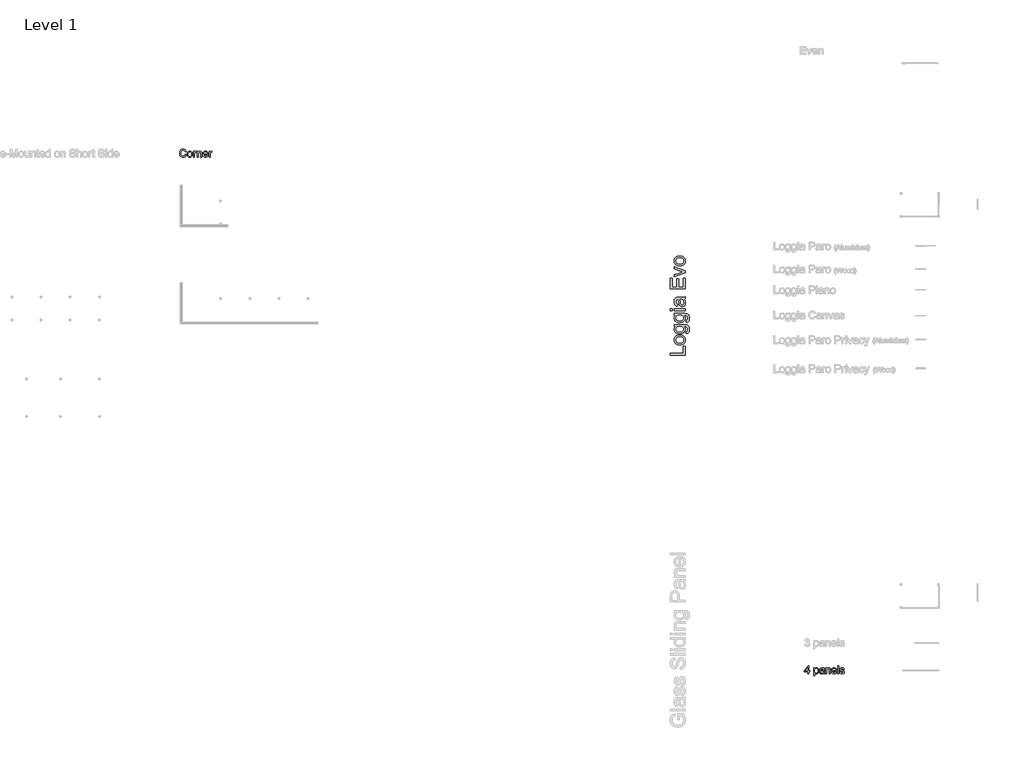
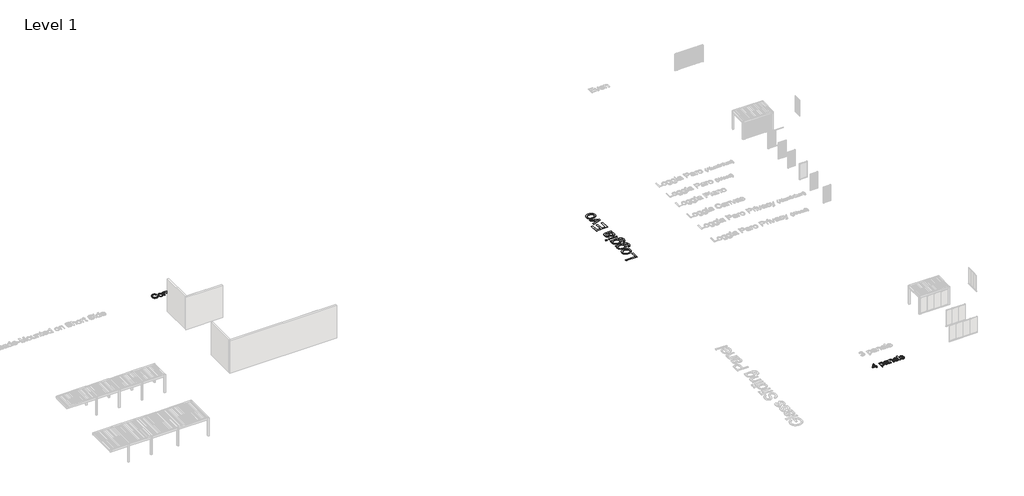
# One storey, part 22 of 69: 3 proxies.
"""IFC4 building model written with IfcOpenShell, lengths in millimetres."""

from ifc_helpers import new_model, si_unit, origin, origin_with_axes, place, context, project, spatial, polyline, outline, extrude, element, save

model = new_model("IFC4")

# Units and contexts
model_context = context("Model", 3, world=origin())
ifc_project = project(units=[si_unit("LENGTHUNIT", "METRE", prefix="MILLI")], contexts=[model_context])

# Site, building, storey
site = spatial("IfcSite", under=ifc_project)
building = spatial("IfcBuilding", under=site)
storey = spatial("IfcBuildingStorey", under=building, Name="Level 1", Elevation=0.0)

# Proxies
placement = place(None, origin())
element("IfcBuildingElementProxy", 1, Name="1500mm", ObjectType="1500mm", at=placement, inside=storey, context=model_context, shape_type="SweptSolid", body=[
    extrude(outline(polyline([(184838.2731482, -25548.0670463), (183331.428496, -25548.0670463), (183331.428496, -25359.7114648), (184649.9175667, -25359.7114648), (184649.9175667, -24606.2891387), (184838.2731482, -24606.2891387), (184838.2731482, -25548.0670463)])), origin_with_axes(), (0.0, 0.0, 1.0), 5.0),
    extrude(outline(polyline([(184284.9786275, -24465.0224525), (184210.8446573, -24462.4760194), (184141.6655977, -24454.8367198), (184077.4414488, -24442.1045539), (184018.1722105, -24424.2795216), (183963.8578828, -24401.3616229), (183914.4984657, -24373.3508579), (183870.0939593, -24340.2472265), (183830.6443634, -24302.0507287), (183801.9323234, -24267.0904428), (183777.0485553, -24230.2677544), (183755.9930592, -24191.5826633), (183738.7658351, -24151.0351697), (183725.3668831, -24108.6252734), (183715.7962031, -24064.3529745), (183710.0537951, -24018.2182731), (183708.1396591, -23970.221169), (183710.4705364, -23917.0191096), (183717.4631684, -23866.3060017), (183729.117555, -23818.0818455), (183745.4336963, -23772.3466409), (183766.4115923, -23729.1003879), (183792.0512429, -23688.3430865), (183822.3526482, -23650.0747368), (183857.3158081, -23614.2953387), (183896.3888997, -23581.918849), (183939.0201, -23553.8592247), (183985.2094089, -23530.1164656), (184034.9568265, -23510.6905718), (184088.2623528, -23495.5815433), (184145.1259878, -23484.7893801), (184205.5477314, -23478.3140821), (184269.5275837, -23476.1556495), (184370.350243, -23479.9724252), (184459.8145457, -23491.4227523), (184537.9204918, -23510.5066308), (184604.6680813, -23537.2240607), (184662.3220877, -23571.2416489), (184713.1472846, -23612.2260025), (184757.143672, -23660.1771213), (184794.3112498, -23715.0950054), (184823.8452762, -23774.8413407), (184844.9410094, -23837.277813), (184857.5984493, -23902.4044225), (184861.8175959, -23970.221169), (184859.4953408, -24024.2624593), (184852.5285755, -24075.6538496), (184840.9173001, -24124.3953399), (184824.6615144, -24170.4869302), (184803.7612186, -24213.9286204), (184778.2164125, -24254.7204107), (184748.0270963, -24292.862301), (184713.1932699, -24328.3542913), (184673.9908448, -24360.3858916), (184630.6957325, -24388.1466119), (184583.307933, -24411.6364521), (184531.8274463, -24430.8554122), (184476.2542724, -24445.8034924), (184416.5884113, -24456.4806925), (184352.829863, -24462.8870125), (184284.9786275, -24465.0224525)]), holes=[polyline([(184284.6107455, -24276.666871), (184375.9719397, -24271.217619), (184417.056886, -24264.4060539), (184455.078065, -24254.8698628), (184490.0354768, -24242.6090457), (184521.9291213, -24227.6236025), (184550.7589986, -24209.9135334), (184576.5251087, -24189.4788382), (184599.2446959, -24166.9805549), (184618.9350049, -24143.0797215), (184635.5960356, -24117.776338), (184649.227788, -24091.0704044), (184659.830262, -24062.9619207), (184667.4034578, -24033.4508869), (184673.4620144, -23970.221169), (184667.3689688, -23907.3133479), (184659.7526619, -23877.9287735), (184649.0898322, -23849.9237566), (184635.3804797, -23823.2982972), (184618.6246045, -23798.0523953), (184598.8222065, -23774.1860508), (184575.9732857, -23751.6992639), (184550.0031161, -23731.2645687), (184520.8369716, -23713.5544995), (184488.4748524, -23698.5690564), (184452.9167583, -23686.3082392), (184414.1626894, -23676.7720482), (184372.2126456, -23669.9604831), (184278.7246336, -23664.511231), (184190.26051, -23669.994972), (184150.3136987, -23676.8496483), (184113.223721, -23686.446195), (184078.9905769, -23698.7846122), (184047.6142664, -23713.8649), (184019.0947896, -23731.6870582), (183993.4321463, -23752.2510869), (183951.0222501, -23798.776663), (183934.3612194, -23824.0311871), (183920.729467, -23850.6135353), (183910.1269929, -23878.5237077), (183902.5537972, -23907.761704), (183896.4952406, -23970.221169), (183902.5308046, -24033.4508869), (183910.0752595, -24062.9619207), (183920.6374965, -24091.0704044), (183934.2175155, -24117.776338), (183950.8153164, -24143.0797215), (183970.4308994, -24166.9805549), (183993.0642643, -24189.4788382), (184018.744152, -24209.9135334), (184047.4993033, -24227.6236025), (184079.3297181, -24242.6090457), (184114.2353965, -24254.8698628), (184152.2163384, -24264.4060539), (184193.2725439, -24271.217619), (184284.6107455, -24276.666871)])]), origin_with_axes(), (0.0, 0.0, 1.0), 5.0),
    extrude(outline(polyline([(184932.450939, -23311.3445157), (184955.9953867, -23122.9889341), (184987.7252088, -23115.033486), (185014.8565059, -23102.2036014), (185037.3892781, -23084.4992804), (185055.3235254, -23061.9205229), (185073.6716399, -23025.3852423), (185086.777436, -22982.7339235), (185094.6409136, -22933.9665665), (185097.2620728, -22879.0831713), (185094.2960243, -22820.2680374), (185085.3978785, -22768.5346318), (185070.5676356, -22723.8829546), (185049.8052955, -22686.3130059), (185023.6856738, -22655.0430363), (184992.7835862, -22629.2912966), (184957.0990327, -22609.0577869), (184916.6320132, -22594.3425071), (184883.3157, -22588.2954468), (184835.6060038, -22584.1337817), (184697.0064621, -22581.4666372), (184730.1158417, -22611.897376), (184758.8106373, -22644.1445322), (184783.090849, -22678.2081057), (184802.9564767, -22714.0880965), (184818.4075205, -22751.7845047), (184829.4439803, -22791.2973302), (184836.0658563, -22832.6265731), (184838.2731482, -22875.7722334), (184835.7037224, -22928.9513002), (184827.995445, -22979.0436072), (184815.1483159, -23026.0491543), (184797.1623353, -23069.9679416), (184774.037503, -23110.799969), (184745.7738191, -23148.5452365), (184712.3712835, -23183.2037441), (184673.8298964, -23214.7754919), (184631.6959116, -23242.9270868), (184587.5155833, -23267.3251357), (184541.2889113, -23287.9696386), (184493.0158958, -23304.8605955), (184442.6965366, -23317.9980064), (184390.3308339, -23327.3818714), (184335.9187875, -23333.0121904), (184279.4603976, -23334.8889634), (184201.8947781, -23331.5205438), (184127.3871778, -23321.4152853), (184055.9375966, -23304.5731877), (183987.5460344, -23280.9942511), (183924.4887612, -23251.0348611), (183869.0420467, -23215.0514034), (183821.205891, -23173.0438781), (183780.9802941, -23125.0122851), (183749.1125163, -23071.7268774), (183726.3498178, -23013.9579078), (183712.6921987, -22951.7053764), (183708.1396591, -22884.9692833), (183710.714833, -22839.909487), (183718.4403549, -22796.884538), (183731.3162247, -22755.8944364), (183749.3424425, -22716.939182), (183772.5190082, -22680.0187748), (183800.8459218, -22645.133215), (183834.3231834, -22612.2825025), (183872.9507929, -22581.4666372), (183731.6841067, -22581.4666372), (183731.6841067, -22393.1110557), (184687.0736482, -22393.1110557), (184806.7847487, -22396.3300232), (184907.6648896, -22405.9869255), (184989.7140708, -22422.0817628), (185052.9322924, -22444.614535), (185103.9184377, -22474.1255688), (185149.2713899, -22511.1551909), (185188.9911491, -22555.7034013), (185223.0777152, -22607.7701999), (185250.4389386, -22666.8267564), (185269.9826696, -22732.3442405), (185281.7089082, -22804.3226521), (185285.6176544, -22882.7619913), (185280.1109208, -22975.0428905), (185263.5907199, -23058.0117767), (185251.2005693, -23096.004215), (185236.0570518, -23131.66865), (185218.1601676, -23165.0050817), (185197.5099165, -23196.0135102), (185174.0948023, -23223.9294306), (185147.9033287, -23247.9883383), (185118.9354957, -23268.1902332), (185087.1913032, -23284.5351153), (185052.6707513, -23297.0229846), (185015.37384, -23305.6538411), (184975.3005692, -23310.4276848), (184932.450939, -23311.3445157)]), holes=[polyline([(184266.5845277, -23146.5333818), (184359.7161541, -23141.5094933), (184439.3511097, -23126.4378278), (184474.107336, -23115.1340787), (184505.4893947, -23101.3183854), (184533.4972856, -23084.9907477), (184558.1310089, -23066.1511659), (184598.2876279, -23023.3963803), (184626.9709273, -22975.5142393), (184644.1809068, -22922.5047431), (184649.9175667, -22864.3678915), (184644.2153958, -22806.8058556), (184627.108883, -22754.0492782), (184598.5980284, -22706.0981594), (184558.6828319, -22662.9524992), (184534.24742, -22643.8542503), (184506.5585517, -22627.3024346), (184475.616227, -22613.2970521), (184441.4204459, -22601.8381027), (184363.2685146, -22586.5595036), (184272.1027577, -22581.4666372), (184184.7422801, -22586.7089557), (184108.809137, -22602.435911), (184075.1278159, -22614.2311274), (184044.3033285, -22628.6475031), (184016.3356746, -22645.685038), (183991.2248543, -22665.3437321), (183949.7806483, -22709.4205937), (183920.177644, -22757.7740834), (183902.4158414, -22810.4042014), (183896.4952406, -22867.3109475), (183902.3238709, -22923.2634997), (183919.809762, -22974.8704458), (183948.9529138, -23022.1317859), (183989.7533264, -23065.0475199), (184014.4790201, -23084.1457688), (184042.0270586, -23100.6975845), (184072.3974418, -23114.702967), (184105.5901696, -23126.1619163), (184180.4426593, -23141.4405155), (184266.5845277, -23146.5333818)])]), origin_with_axes(), (0.0, 0.0, 1.0), 5.0),
    extrude(outline(polyline([(184932.450939, -22157.6665788), (184955.9953867, -21969.3109973), (184987.7252088, -21961.3555491), (185014.8565059, -21948.5256645), (185037.3892781, -21930.8213435), (185055.3235254, -21908.2425861), (185073.6716399, -21871.7073054), (185086.777436, -21829.0559866), (185094.6409136, -21780.2886296), (185097.2620728, -21725.4052345), (185094.2960243, -21666.5901005), (185085.3978785, -21614.8566949), (185070.5676356, -21570.2050177), (185049.8052955, -21532.635069), (185023.6856738, -21501.3650994), (184992.7835862, -21475.6133597), (184957.0990327, -21455.37985), (184916.6320132, -21440.6645702), (184883.3157, -21434.6175099), (184835.6060038, -21430.4558448), (184697.0064621, -21427.7887004), (184730.1158417, -21458.2194391), (184758.8106373, -21490.4665953), (184783.090849, -21524.5301688), (184802.9564767, -21560.4101596), (184818.4075205, -21598.1065678), (184829.4439803, -21637.6193934), (184836.0658563, -21678.9486363), (184838.2731482, -21722.0942965), (184835.7037224, -21775.2733634), (184827.995445, -21825.3656703), (184815.1483159, -21872.3712175), (184797.1623353, -21916.2900047), (184774.037503, -21957.1220321), (184745.7738191, -21994.8672996), (184712.3712835, -22029.5258073), (184673.8298964, -22061.0975551), (184631.6959116, -22089.2491499), (184587.5155833, -22113.6471988), (184541.2889113, -22134.2917017), (184493.0158958, -22151.1826586), (184442.6965366, -22164.3200696), (184390.3308339, -22173.7039345), (184335.9187875, -22179.3342535), (184279.4603976, -22181.2110265), (184201.8947781, -22177.842607), (184127.3871778, -22167.7373484), (184055.9375966, -22150.8952508), (183987.5460344, -22127.3163142), (183924.4887612, -22097.3569242), (183869.0420467, -22061.3734666), (183821.205891, -22019.3659412), (183780.9802941, -21971.3343482), (183749.1125163, -21918.0489405), (183726.3498178, -21860.2799709), (183712.6921987, -21798.0274396), (183708.1396591, -21731.2913464), (183710.714833, -21686.2315501), (183718.4403549, -21643.2066012), (183731.3162247, -21602.2164995), (183749.3424425, -21563.2612451), (183772.5190082, -21526.340838), (183800.8459218, -21491.4552781), (183834.3231834, -21458.6045656), (183872.9507929, -21427.7887004), (183731.6841067, -21427.7887004), (183731.6841067, -21239.4331188), (184687.0736482, -21239.4331188), (184806.7847487, -21242.6520863), (184907.6648896, -21252.3089887), (184989.7140708, -21268.4038259), (185052.9322924, -21290.9365982), (185103.9184377, -21320.447632), (185149.2713899, -21357.477254), (185188.9911491, -21402.0254644), (185223.0777152, -21454.092263), (185250.4389386, -21513.1488196), (185269.9826696, -21578.6663036), (185281.7089082, -21650.6447153), (185285.6176544, -21729.0840544), (185280.1109208, -21821.3649536), (185263.5907199, -21904.3338399), (185251.2005693, -21942.3262781), (185236.0570518, -21977.9907131), (185218.1601676, -22011.3271448), (185197.5099165, -22042.3355733), (185174.0948023, -22070.2514938), (185147.9033287, -22094.3104014), (185118.9354957, -22114.5122963), (185087.1913032, -22130.8571784), (185052.6707513, -22143.3450477), (185015.37384, -22151.9759042), (184975.3005692, -22156.7497479), (184932.450939, -22157.6665788)]), holes=[polyline([(184266.5845277, -21992.855445), (184359.7161541, -21987.8315565), (184439.3511097, -21972.759891), (184474.107336, -21961.4561418), (184505.4893947, -21947.6404485), (184533.4972856, -21931.3128109), (184558.1310089, -21912.473229), (184598.2876279, -21869.7184434), (184626.9709273, -21821.8363024), (184644.1809068, -21768.8268062), (184649.9175667, -21710.6899547), (184644.2153958, -21653.1279187), (184627.108883, -21600.3713413), (184598.5980284, -21552.4202225), (184558.6828319, -21509.2745623), (184534.24742, -21490.1763134), (184506.5585517, -21473.6244977), (184475.616227, -21459.6191152), (184441.4204459, -21448.1601658), (184363.2685146, -21432.8815667), (184272.1027577, -21427.7887004), (184184.7422801, -21433.0310188), (184108.809137, -21448.7579741), (184075.1278159, -21460.5531906), (184044.3033285, -21474.9695662), (184016.3356746, -21492.0071011), (183991.2248543, -21511.6657953), (183949.7806483, -21555.7426568), (183920.177644, -21604.0961465), (183902.4158414, -21656.7262645), (183896.4952406, -21713.6330106), (183902.3238709, -21769.5855628), (183919.809762, -21821.192509), (183948.9529138, -21868.453849), (183989.7533264, -21911.369583), (184014.4790201, -21930.4678319), (184042.0270586, -21947.0196476), (184072.3974418, -21961.0250301), (184105.5901696, -21972.4839795), (184180.4426593, -21987.7625786), (184266.5845277, -21992.855445)])]), origin_with_axes(), (0.0, 0.0, 1.0), 5.0),
    extrude(outline(polyline([(183519.7840775, -20956.8997465), (183331.428496, -20956.8997465), (183331.428496, -20768.544165), (183519.7840775, -20768.544165), (183519.7840775, -20956.8997465)])), origin_with_axes(), (0.0, 0.0, 1.0), 5.0),
    extrude(outline(polyline([(184838.2731482, -20956.8997465), (183731.6841067, -20956.8997465), (183731.6841067, -20768.544165), (184838.2731482, -20768.544165), (184838.2731482, -20956.8997465)])), origin_with_axes(), (0.0, 0.0, 1.0), 5.0),
    extrude(outline(polyline([(184697.0064621, -19779.677362), (184738.9220169, -19824.3405354), (184774.1697106, -19869.670495), (184802.7495431, -19915.6672407), (184824.6615144, -19962.3307726), (184840.9173001, -20010.1899209), (184852.5285755, -20059.773516), (184859.4953408, -20111.0815581), (184861.8175959, -20164.1140469), (184856.2303881, -20247.9796455), (184849.2463784, -20286.0410616), (184839.4687647, -20321.5215556), (184826.8975472, -20354.4211275), (184811.5327257, -20384.7397772), (184793.3743004, -20412.4775048), (184772.4222711, -20437.6343103), (184749.2974388, -20460.0090083), (184724.6206043, -20479.4004131), (184698.3917677, -20495.8085249), (184670.6109289, -20509.2333437), (184641.278088, -20519.6748693), (184610.3932448, -20527.133102), (184543.9675521, -20533.0996881), (184504.029363, -20530.8464109), (184465.8845986, -20524.0865792), (184429.533259, -20512.8201931), (184394.975344, -20497.0472526), (184362.9696105, -20477.6069884), (184334.2748148, -20455.3386314), (184308.8909572, -20430.2421815), (184286.8180375, -20402.3176388), (184250.9495429, -20340.0076259), (184225.0138623, -20270.4319435), (184210.574494, -20202.6496859), (184196.6869486, -20107.4602197), (184182.4315213, -20003.8554528), (184166.888507, -19914.8739952), (184150.0579058, -19840.5158469), (184131.9397175, -19780.781008), (184090.00117, -19779.677362), (184044.3378174, -19782.9193221), (184005.9401341, -19792.6452023), (183974.8081203, -19808.8550027), (183950.9417759, -19831.5487233), (183927.1214167, -19870.774141), (183910.1068744, -19918.5528151), (183899.898149, -19974.8847457), (183896.4952406, -20039.7699326), (183898.7600141, -20100.1025798), (183905.5543347, -20151.9739411), (183916.8782024, -20195.3840165), (183932.7316171, -20230.3328061), (183954.3561806, -20259.0505943), (183982.9934947, -20283.7676659), (184018.6435593, -20304.4840207), (184061.3063744, -20321.1996589), (184037.7619267, -20509.5552404), (183983.4993324, -20495.2193389), (183934.7549681, -20476.8597281), (183891.5288336, -20454.4764079), (183853.8209291, -20428.0693785), (183820.8724979, -20396.5005048), (183791.9247835, -20358.6316519), (183766.9777857, -20314.4628198), (183746.0315046, -20263.9940086), (183729.4538221, -20208.24839), (183717.6126204, -20148.2491359), (183710.5078994, -20083.9962462), (183708.1396591, -20015.4897209), (183710.2319879, -19948.5237014), (183716.5089744, -19888.1565653), (183726.9706187, -19834.3883124), (183741.6169206, -19787.2189429), (183759.4247084, -19746.257582), (183779.3708104, -19711.1133551), (183801.4552264, -19681.7862623), (183825.6779565, -19658.2763036), (183852.636809, -19639.2154177), (183882.929592, -19623.2355435), (183916.5563056, -19610.3366811), (183953.5169498, -19600.5188303), (184018.632063, -19593.6210429), (184118.3280837, -19591.3217804), (184352.6689146, -19591.3217804), (184556.7974367, -19588.9305475), (184679.8999493, -19581.7568486), (184760.788003, -19567.5933917), (184838.2731482, -19544.2328851), (184838.2731482, -19732.5884666), (184806.8192376, -19749.3270974), (184772.7901531, -19762.7547902), (184736.1858946, -19772.8715451), (184697.0064621, -19779.677362)]), holes=[polyline([(184320.295299, -19779.677362), (184336.5970699, -19836.6071007), (184351.6572391, -19906.2287683), (184378.0527723, -20083.54789), (184392.4921406, -20181.266545), (184408.5869779, -20245.5999089), (184429.4642811, -20287.7683826), (184442.8689813, -20304.7484359), (184458.2510472, -20318.9923669), (184475.0586559, -20330.258753), (184492.7399843, -20338.3061716), (184511.2950324, -20343.1346228), (184530.7238003, -20344.7441066), (184559.9934115, -20341.2377313), (184586.733834, -20330.7186055), (184610.9450678, -20313.1867292), (184632.6271129, -20288.6421023), (184650.4923823, -20257.3146511), (184663.253289, -20219.434302), (184670.9098331, -20175.0010547), (184673.4620144, -20124.0149095), (184670.6454179, -20071.9596071), (184662.1956283, -20022.8473608), (184648.1126457, -19976.6781704), (184628.39647, -19933.452036), (184604.6795776, -19894.4565445), (184578.5944449, -19860.9792829), (184550.1410718, -19833.0202513), (184519.3194584, -19810.5794496), (184491.7283088, -19797.5426314), (184458.2510472, -19788.2306184), (184418.8876737, -19782.6434106), (184373.6381883, -19780.781008), (184320.295299, -19779.677362)])]), origin_with_axes(), (0.0, 0.0, 1.0), 5.0),
    extrude(outline(polyline([(184838.2731482, -18720.1772159), (183331.428496, -18720.1772159), (183331.428496, -17637.1326221), (183519.7840775, -17637.1326221), (183519.7840775, -18531.8216343), (183967.1285837, -18531.8216343), (183967.1285837, -17684.2215174), (184155.4841652, -17684.2215174), (184155.4841652, -18531.8216343), (184649.9175667, -18531.8216343), (184649.9175667, -17613.5881744), (184838.2731482, -17613.5881744), (184838.2731482, -18720.1772159)])), origin_with_axes(), (0.0, 0.0, 1.0), 5.0),
    extrude(outline(polyline([(184838.2731482, -17083.1023373), (183731.6841067, -17472.3214882), (183731.6841067, -17272.9294468), (184394.6074621, -17037.1170879), (184504.0523556, -17000.0529769), (184617.5439511, -16966.1158629), (184521.1588684, -16936.2254507), (184407.1154499, -16896.5861658), (183731.6841067, -16659.3022789), (183731.6841067, -16459.9102375), (184838.2731482, -16844.3469225), (184838.2731482, -17083.1023373)])), origin_with_axes(), (0.0, 0.0, 1.0), 5.0),
    extrude(outline(polyline([(184284.9786275, -16342.187999), (184210.8446573, -16339.6415659), (184141.6655977, -16332.0022663), (184077.4414488, -16319.2701004), (184018.1722105, -16301.4450681), (183963.8578828, -16278.5271694), (183914.4984657, -16250.5164044), (183870.0939593, -16217.412773), (183830.6443634, -16179.2162752), (183801.9323234, -16144.2559893), (183777.0485553, -16107.4333009), (183755.9930592, -16068.7482098), (183738.7658351, -16028.2007162), (183725.3668831, -15985.7908199), (183715.7962031, -15941.518521), (183710.0537951, -15895.3838196), (183708.1396591, -15847.3867155), (183710.4705364, -15794.184656), (183717.4631684, -15743.4715482), (183729.117555, -15695.247392), (183745.4336963, -15649.5121874), (183766.4115923, -15606.2659344), (183792.0512429, -15565.508633), (183822.3526482, -15527.2402833), (183857.3158081, -15491.4608852), (183896.3888997, -15459.0843955), (183939.0201, -15431.0247712), (183985.2094089, -15407.2820121), (184034.9568265, -15387.8561183), (184088.2623528, -15372.7470898), (184145.1259878, -15361.9549266), (184205.5477314, -15355.4796286), (184269.5275837, -15353.321196), (184370.350243, -15357.1379717), (184459.8145457, -15368.5882988), (184537.9204918, -15387.6721773), (184604.6680813, -15414.3896072), (184662.3220877, -15448.4071954), (184713.1472846, -15489.391549), (184757.143672, -15537.3426678), (184794.3112498, -15592.2605519), (184823.8452762, -15652.0068871), (184844.9410094, -15714.4433595), (184857.5984493, -15779.569969), (184861.8175959, -15847.3867155), (184859.4953408, -15901.4280058), (184852.5285755, -15952.8193961), (184840.9173001, -16001.5608864), (184824.6615144, -16047.6524766), (184803.7612186, -16091.0941669), (184778.2164125, -16131.8859572), (184748.0270963, -16170.0278475), (184713.1932699, -16205.5198378), (184673.9908448, -16237.5514381), (184630.6957325, -16265.3121584), (184583.307933, -16288.8019986), (184531.8274463, -16308.0209587), (184476.2542724, -16322.9690389), (184416.5884113, -16333.646239), (184352.829863, -16340.052559), (184284.9786275, -16342.187999)]), holes=[polyline([(184284.6107455, -16153.8324175), (184375.9719397, -16148.3831655), (184417.056886, -16141.5716004), (184455.078065, -16132.0354093), (184490.0354768, -16119.7745922), (184521.9291213, -16104.789149), (184550.7589986, -16087.0790798), (184576.5251087, -16066.6443846), (184599.2446959, -16044.1461014), (184618.9350049, -16020.245268), (184635.5960356, -15994.9418845), (184649.227788, -15968.2359509), (184659.830262, -15940.1274672), (184667.4034578, -15910.6164334), (184673.4620144, -15847.3867155), (184667.3689688, -15784.4788943), (184659.7526619, -15755.09432), (184649.0898322, -15727.0893031), (184635.3804797, -15700.4638437), (184618.6246045, -15675.2179418), (184598.8222065, -15651.3515973), (184575.9732857, -15628.8648104), (184550.0031161, -15608.4301152), (184520.8369716, -15590.720046), (184488.4748524, -15575.7346029), (184452.9167583, -15563.4737857), (184414.1626894, -15553.9375947), (184372.2126456, -15547.1260296), (184278.7246336, -15541.6767775), (184190.26051, -15547.1605185), (184150.3136987, -15554.0151948), (184113.223721, -15563.6117415), (184078.9905769, -15575.9501587), (184047.6142664, -15591.0304464), (184019.0947896, -15608.8526047), (183993.4321463, -15629.4166334), (183951.0222501, -15675.9422095), (183934.3612194, -15701.1967336), (183920.729467, -15727.7790818), (183910.1269929, -15755.6892541), (183902.5537972, -15784.9272505), (183896.4952406, -15847.3867155), (183902.5308046, -15910.6164334), (183910.0752595, -15940.1274672), (183920.6374965, -15968.2359509), (183934.2175155, -15994.9418845), (183950.8153164, -16020.245268), (183970.4308994, -16044.1461014), (183993.0642643, -16066.6443846), (184018.744152, -16087.0790798), (184047.4993033, -16104.789149), (184079.3297181, -16119.7745922), (184114.2353965, -16132.0354093), (184152.2163384, -16141.5716004), (184193.2725439, -16148.3831655), (184284.6107455, -16153.8324175)])]), origin_with_axes(), (0.0, 0.0, 1.0), 5.0),
])
element("IfcBuildingElementProxy", 2, Name="800mm Arial", ObjectType="800mm Arial", at=placement, inside=storey, context=model_context, shape_type="SweptSolid", body=[
    extrude(outline(polyline([(133455.2381003, -4887.2561585), (133555.1616876, -4913.0177084), (133535.3892102, -4975.158909), (133509.0543682, -5029.4569862), (133476.1571618, -5075.9119401), (133436.6975909, -5114.5237706), (133391.5660879, -5144.8777558), (133341.653085, -5166.5591739), (133286.9585824, -5179.5680247), (133227.48258, -5183.9043083), (133166.5489521, -5180.623126), (133111.5800011, -5170.7795793), (133062.5757272, -5154.373668), (133019.5361303, -5131.4053923), (132981.8696218, -5102.2162878), (132948.9846131, -5067.1478901), (132920.8811042, -5026.2001994), (132897.559095, -4979.3732155), (132879.2442432, -4928.6917574), (132866.1622062, -4876.1806437), (132858.3129839, -4821.8398745), (132855.6965765, -4765.6694497), (132858.6545196, -4705.4005966), (132867.528349, -4649.1081948), (132882.3180645, -4596.7922444), (132903.0236662, -4548.4527453), (132929.1816414, -4504.8886472), (132960.3284774, -4466.8988996), (132996.4641741, -4434.4835024), (133037.5887315, -4407.6424558), (133082.3055127, -4386.5953184), (133129.2178804, -4371.5616488), (133178.3258348, -4362.541447), (133229.6293759, -4359.5347131), (133286.7817157, -4363.4257805), (133339.1891489, -4375.0989828), (133386.8516755, -4394.5543199), (133429.7692953, -4421.7917919), (133467.2345417, -4456.0917342), (133498.5399478, -4496.7344824), (133523.6855136, -4543.7200364), (133542.6712392, -4597.0483962), (133442.7476519, -4620.8583135), (133427.0126143, -4581.5634116), (133408.1061739, -4547.9892326), (133386.0283305, -4520.1357766), (133360.7790842, -4498.0030435), (133332.2120625, -4481.1397184), (133300.1808931, -4469.0944862), (133264.6855758, -4461.8673469), (133225.7261107, -4459.4583004), (133180.8995503, -4462.1295975), (133139.9030687, -4470.1434887), (133102.7366661, -4483.4999741), (133069.4003423, -4502.1990536), (133040.3149183, -4525.3990857), (133015.9012147, -4552.2584288), (132996.1592315, -4582.7770831), (132981.0889688, -4616.9550483), (132969.9463666, -4653.2432163), (132961.9873651, -4690.0924787), (132957.2119641, -4727.5028354), (132955.6201638, -4765.4742865), (132957.504709, -4813.1917027), (132963.1583446, -4857.7865068), (132972.5810706, -4899.2586988), (132985.7728869, -4937.6082787), (133002.9472535, -4972.07289), (133024.3176301, -5001.8901762), (133049.8840167, -5027.0601375), (133079.6464133, -5047.5827737), (133112.159392, -5063.5068756), (133145.9775251, -5074.8812342), (133181.1008124, -5081.7058493), (133217.529254, -5083.980721), (133260.9713751, -5080.8825043), (133300.9371507, -5071.5878542), (133337.4265808, -5056.0967707), (133370.4396654, -5034.4092539), (133399.1957514, -5006.6228852), (133422.9141859, -4972.8352464), (133441.5949689, -4933.0463375), (133455.2381003, -4887.2561585)])), origin_with_axes(), (0.0, 0.0, 1.0), 5.0),
    extrude(outline(polyline([(133655.0852749, -4877.8883222), (133660.4888575, -4801.8600361), (133667.2433359, -4767.7888007), (133676.6996055, -4736.3461705), (133688.8576665, -4707.5321453), (133703.7175188, -4681.3467253), (133721.2791625, -4657.7899103), (133741.5425975, -4636.8617005), (133779.6238279, -4608.4288536), (133821.6571142, -4588.1196772), (133867.6424565, -4575.9341714), (133917.5798548, -4571.8723361), (133972.7073759, -4576.8185049), (134022.5532913, -4591.6570112), (134067.1176012, -4616.3878551), (134106.4003054, -4651.0110366), (134138.4619691, -4694.3555761), (134161.3631575, -4745.250494), (134175.1038705, -4803.6957905), (134179.6841082, -4869.6914654), (134177.6592894, -4923.1783954), (134171.584833, -4970.6396598), (134161.4607391, -5012.0752587), (134147.2870076, -5047.485192), (134129.2405052, -5078.0709336), (134107.4980987, -5105.0339573), (134082.059788, -5128.374263), (134052.9255731, -5148.0918507), (134021.2298405, -5163.7598009), (133988.1069766, -5174.9511939), (133953.5569813, -5181.6660297), (133917.5798548, -5183.9043083), (133861.6472853, -5178.9764361), (133811.3378571, -5164.1928194), (133766.6515702, -5139.5534583), (133727.5884246, -5105.0583527), (133695.8682966, -5061.2929924), (133673.2110623, -5008.8428673), (133659.6167217, -4947.7079772), (133655.0852749, -4877.8883222)]), holes=[polyline([(133755.0088622, -4877.6931589), (133757.8997179, -4926.1607339), (133766.5722851, -4968.1269329), (133781.0265638, -5003.5917559), (133801.2625539, -5032.5552029), (133825.8775197, -5055.0538671), (133853.468725, -5071.1243415), (133884.0361701, -5080.7666261), (133917.5798548, -5083.980721), (133950.9527716, -5080.7483295), (133981.3982396, -5071.0511552), (134008.9162588, -5054.8891981), (134033.5068291, -5032.262458), (134053.7428192, -5003.012365), (134068.1970979, -4966.9803488), (134076.8696651, -4924.1664094), (134079.7605209, -4874.5705468), (134076.8513686, -4827.6398825), (134068.1239117, -4786.7714768), (134053.5781502, -4751.9653298), (134033.2140842, -4723.2214415), (134008.5320311, -4700.7227773), (133981.0323085, -4684.6523029), (133950.7149164, -4675.0100183), (133917.5798548, -4671.7959234), (133884.0361701, -4674.9978206), (133853.468725, -4684.6035121), (133825.8775197, -4700.612998), (133801.2625539, -4723.0262782), (133781.0265638, -4751.9043413), (133766.5722851, -4787.3081758), (133757.8997179, -4829.2377817), (133755.0088622, -4877.6931589)])]), origin_with_axes(), (0.0, 0.0, 1.0), 5.0),
    extrude(outline(polyline([(134292.0981439, -5171.4138599), (134292.0981439, -4584.3627845), (134379.5312827, -4584.3627845), (134379.5312827, -4671.2104336), (134411.8308017, -4620.8583135), (134427.0291403, -4603.4399928), (134441.5931983, -4591.1934985), (134471.4531765, -4576.7026267), (134504.0454403, -4571.8723361), (134528.8311739, -4573.7995733), (134553.8120707, -4579.5812847), (134578.9881308, -4589.2174705), (134604.3593542, -4602.7081306), (134570.9864373, -4692.2880653), (134535.8570511, -4676.9189589), (134500.727665, -4671.7959234), (134470.8920822, -4676.7237956), (134444.2279023, -4691.5074123), (134422.6867578, -4715.0245847), (134408.2202814, -4746.1531241), (134396.0713687, -4801.9698154), (134392.0217312, -4862.8607514), (134392.0217312, -5171.4138599), (134292.0981439, -5171.4138599)])), origin_with_axes(), (0.0, 0.0, 1.0), 5.0),
    extrude(outline(polyline([(134666.8115962, -5171.4138599), (134666.8115962, -4584.3627845), (134766.7351835, -4584.3627845), (134766.7351835, -4666.3313522), (134783.2203798, -4644.1925203), (134801.4498477, -4625.0055327), (134821.4235873, -4608.7703893), (134843.1415984, -4595.4870901), (134866.6038811, -4585.1556352), (134891.8104355, -4577.7760246), (134947.456359, -4571.8723361), (134996.7106858, -4576.6294405), (135041.8177934, -4590.9007536), (135079.4355111, -4612.9054108), (135106.2216681, -4640.8625473), (135124.3962463, -4674.6989768), (135136.1792279, -4714.3415133), (135140.1312839, -4752.2519759), (135141.4486359, -4810.9473252), (135141.4486359, -5171.4138599), (135041.5250486, -5171.4138599), (135041.5250486, -4824.4135899), (135038.6463905, -4772.7441178), (135030.0104164, -4736.0046348), (135014.0802156, -4709.6819906), (134989.3188775, -4689.2630349), (134957.5804529, -4676.1627013), (134920.7189928, -4671.7959234), (134890.3772053, -4674.2476618), (134862.1944113, -4681.602877), (134836.1706108, -4693.8615691), (134812.3058039, -4711.0237379), (134792.3686575, -4735.0410162), (134778.1278386, -4767.8650364), (134769.5833473, -4809.4957985), (134766.7351835, -4859.9333026), (134766.7351835, -5171.4138599), (134666.8115962, -5171.4138599)])), origin_with_axes(), (0.0, 0.0, 1.0), 5.0),
    extrude(outline(polyline([(135689.8573864, -4996.5475821), (135787.8293412, -5009.0380305), (135772.8078693, -5048.2780428), (135752.5291871, -5082.8585323), (135726.9932948, -5112.779499), (135696.2001923, -5138.040943), (135660.4670198, -5158.1061653), (135620.1109177, -5172.438467), (135575.1318859, -5181.0378479), (135525.5299245, -5183.9043083), (135463.5289975, -5178.9581395), (135408.2855982, -5164.1196332), (135359.7997267, -5139.3887893), (135318.0713829, -5104.7656078), (135284.5155005, -5061.2137074), (135260.5470131, -5009.6967065), (135246.1659206, -4950.2146053), (135241.3722231, -4882.7674036), (135246.2147114, -4813.0331325), (135260.7421763, -4751.5689045), (135284.9546178, -4698.3747194), (135300.6927048, -4674.878893), (135318.8520359, -4653.4505773), (135360.4706004, -4617.7600968), (135407.8464809, -4592.2668964), (135460.9796774, -4576.9709762), (135519.8701901, -4571.8723361), (135576.8639598, -4576.9587785), (135628.4053561, -4592.2181056), (135674.4943788, -4617.6503174), (135715.1310281, -4653.255414), (135748.3026829, -4698.0819745), (135771.996722, -4751.178578), (135786.2131454, -4812.5452244), (135790.9519533, -4882.1819138), (135790.3664635, -4909.1144432), (135341.2958104, -4909.1144432), (135347.0836208, -4948.9887361), (135358.592154, -4983.9107612), (135375.8214103, -5013.8805188), (135398.7713895, -5038.8980087), (135426.1735304, -5058.6216954), (135456.759272, -5072.7100429), (135490.5286142, -5081.1630515), (135527.4815571, -5083.980721), (135580.6635445, -5078.7601039), (135625.4535118, -5063.0982525), (135644.701488, -5051.10791), (135661.8514591, -5036.0193507), (135676.9034253, -5017.8325748), (135689.8573864, -4996.5475821)]), holes=[polyline([(135341.2958104, -4809.1908559), (135691.028366, -4809.1908559), (135685.8931328, -4780.9165792), (135677.5133105, -4756.3991951), (135665.888899, -4735.6387037), (135651.0198984, -4718.6351049), (135623.7702287, -4698.142963), (135592.7636664, -4683.5057188), (135558.0002113, -4674.7233722), (135519.4798636, -4671.7959234), (135484.3443786, -4674.1317836), (135452.1241447, -4681.1393643), (135422.819162, -4692.8186654), (135396.4294304, -4709.169687), (135374.2844996, -4729.4361714), (135357.7139194, -4752.861861), (135346.7176897, -4779.4467559), (135341.2958104, -4809.1908559)])]), origin_with_axes(), (0.0, 0.0, 1.0), 5.0),
    extrude(outline(polyline([(135890.8755405, -5171.4138599), (135890.8755405, -4584.3627845), (135978.3086794, -4584.3627845), (135978.3086794, -4671.2104336), (136010.6081984, -4620.8583135), (136025.806537, -4603.4399928), (136040.370595, -4591.1934985), (136070.2305732, -4576.7026267), (136102.822837, -4571.8723361), (136127.6085706, -4573.7995733), (136152.5894674, -4579.5812847), (136177.7655275, -4589.2174705), (136203.1367508, -4602.7081306), (136169.763834, -4692.2880653), (136134.6344478, -4676.9189589), (136099.5050617, -4671.7959234), (136069.6694788, -4676.7237956), (136043.0052989, -4691.5074123), (136021.4641545, -4715.0245847), (136006.9976781, -4746.1531241), (135994.8487654, -4801.9698154), (135990.7991278, -4862.8607514), (135990.7991278, -5171.4138599), (135890.8755405, -5171.4138599)])), origin_with_axes(), (0.0, 0.0, 1.0), 5.0),
])
element("IfcBuildingElementProxy", 3, Name="800mm Arial", ObjectType="800mm Arial", at=placement, inside=storey, context=model_context, shape_type="SweptSolid", body=[
    extrude(outline(polyline([(197446.668266, -58276.1993899), (197446.668266, -58088.8426637), (197084.4452621, -58088.8426637), (197084.4452621, -57988.9190764), (197471.6491628, -57489.30114), (197546.5918533, -57489.30114), (197546.5918533, -57988.9190764), (197646.5154406, -57988.9190764), (197646.5154406, -58088.8426637), (197546.5918533, -58088.8426637), (197546.5918533, -58276.1993899), (197446.668266, -58276.1993899)]), holes=[polyline([(197446.668266, -57988.9190764), (197446.668266, -57680.1708047), (197207.3981136, -57988.9190764), (197446.668266, -57988.9190764)])]), origin_with_axes(), (0.0, 0.0, 1.0), 5.0),
    extrude(outline(polyline([(198071.1906866, -58501.0274613), (198071.1906866, -57689.1483145), (198171.1142739, -57689.1483145), (198171.1142739, -57787.1202693), (198203.7065377, -57738.7929679), (198221.466394, -57719.8072424), (198240.2020667, -57704.2734669), (198260.4502545, -57692.1916416), (198282.7476566, -57683.5617663), (198307.0942728, -57678.3838412), (198333.4901032, -57676.6578661), (198368.3389422, -57679.0730114), (198401.0653808, -57686.3184473), (198431.6694189, -57698.3941738), (198460.1510567, -57715.3001909), (198485.8882111, -57736.5973813), (198508.2587994, -57761.8466276), (198527.2628215, -57791.0479298), (198542.9002774, -57824.201288), (198555.1101786, -57860.1723157), (198563.8315366, -57897.8266265), (198569.0643515, -57937.1642204), (198570.8086231, -57978.1850973), (198568.8386939, -58022.0419403), (198562.9289066, -58063.6422082), (198553.079261, -58102.9859009), (198539.2897571, -58140.0730185), (198521.7494595, -58173.9338435), (198500.6474324, -58203.5986585), (198475.9836758, -58229.0674635), (198447.7581899, -58250.3402584), (198417.3554138, -58267.1181996), (198386.1597871, -58279.1024433), (198354.1713096, -58286.2929896), (198321.3899813, -58288.6898383), (198297.8057216, -58287.0858403), (198275.4534299, -58282.2738462), (198254.3331062, -58274.2538562), (198234.4447506, -58263.0258701), (198199.3397598, -58233.9709403), (198171.1142739, -58198.1340873), (198171.1142739, -58501.0274613), (198071.1906866, -58501.0274613)]), holes=[polyline([(198171.1142739, -57987.3577704), (198173.8160652, -58035.5143039), (198181.9214392, -58076.9377051), (198195.4303959, -58111.6279739), (198214.3429352, -58139.5851104), (198237.1099488, -58161.1018594), (198262.1823284, -58176.4709658), (198289.560074, -58185.6924297), (198319.2431855, -58188.766251), (198349.3532167, -58185.5826504), (198377.2310681, -58176.0318485), (198402.8767398, -58160.1138454), (198426.2902317, -58137.8286411), (198445.8004585, -58108.8590952), (198459.7363347, -58072.8880675), (198468.0978605, -58029.915558), (198470.8850358, -57979.9415666), (198468.1649479, -57932.199755), (198460.0046842, -57890.8495401), (198446.4042448, -57855.8909218), (198427.3636296, -57827.3239001), (198404.5417263, -57805.1240797), (198379.5974226, -57789.2670651), (198352.5307184, -57779.7528563), (198323.3416139, -57776.5814534), (198294.2439921, -57779.9541184), (198266.8662466, -57790.0721135), (198241.2083772, -57806.9354386), (198217.270384, -57830.5440938), (198197.0770858, -57860.5809388), (198182.6533014, -57896.7288332), (198173.9990308, -57938.987777), (198171.1142739, -57987.3577704)])]), origin_with_axes(), (0.0, 0.0, 1.0), 5.0),
    extrude(outline(polyline([(199057.9361111, -58201.2566994), (199010.1942995, -58242.1921924), (198985.7927936, -58257.3539379), (198961.0375543, -58268.9783494), (198909.3436867, -58283.7619661), (198853.9905081, -58288.6898383), (198809.4993845, -58285.7257963), (198770.4850298, -58276.8336705), (198736.9474439, -58262.0134607), (198708.886627, -58241.265167), (198686.7294985, -58215.9061413), (198670.9029782, -58187.2537358), (198661.407066, -58155.3079502), (198658.2417619, -58120.0687847), (198663.0232617, -58078.6453836), (198677.3677611, -58041.0276659), (198699.4943953, -58008.8257286), (198727.6222996, -57983.6496685), (198760.6780762, -57964.621251), (198797.588327, -57950.8622414), (198884.0456496, -57935.8346707), (198986.2136144, -57920.0264469), (199057.3506213, -57901.4859375), (199057.9361111, -57879.2373263), (199056.2162349, -57855.0126871), (199051.0566063, -57834.6425222), (199042.4572253, -57818.1268316), (199030.418092, -57805.4656154), (199009.6088097, -57792.8287945), (198984.2619818, -57783.8024939), (198954.3776082, -57778.3867135), (198919.9556888, -57776.5814534), (198860.4308956, -57781.3873486), (198837.4016313, -57787.3947176), (198818.861122, -57795.8050342), (198803.6261903, -57807.2769743), (198790.513659, -57822.4692141), (198779.5235281, -57841.3817534), (198770.6557976, -57864.0145923), (198670.7322104, -57851.5241439), (198688.0773448, -57796.8784321), (198699.9518092, -57773.9467495), (198713.9608717, -57753.9425157), (198730.7083186, -57736.4632065), (198750.7979363, -57721.1062978), (198774.2297248, -57707.8717895), (198801.003684, -57696.7596815), (198862.4069236, -57681.68332), (198932.8364637, -57676.6578661), (199000.3873459, -57681.0978302), (199053.9352644, -57694.4177225), (199094.309663, -57714.4463517), (199122.3399857, -57739.0125266), (199140.9292859, -57769.3848083), (199152.980617, -57806.8317582), (199156.6399281, -57841.3756546), (199157.8596984, -57894.264897), (199157.8596984, -58018.5838914), (199159.1282596, -58126.8751033), (199162.9339431, -58192.181608), (199170.4477284, -58235.093129), (199182.8405952, -58276.1993899), (199082.9170079, -58276.1993899), (199066.9136209, -58241.4603302), (199057.9361111, -58201.2566994)]), holes=[polyline([(199057.9361111, -58001.4095248), (198990.7999509, -58018.0471924), (198896.7312613, -58032.0501561), (198844.8910213, -58039.7103139), (198810.7618468, -58048.2487064), (198788.3912586, -58059.3242212), (198771.8267772, -58074.595746), (198761.5807062, -58092.8923013), (198758.1653492, -58113.0429075), (198760.025499, -58128.5705841), (198765.6059484, -58142.7565133), (198774.9066973, -58155.6006951), (198787.9277458, -58167.1031295), (198804.5471169, -58176.5807452), (198824.6428335, -58183.3504706), (198875.2633031, -58188.766251), (198928.9331986, -58182.7893763), (198953.4261873, -58175.3182829), (198976.3578699, -58164.8587521), (199014.8050314, -58138.4385262), (199041.5423976, -58106.9928466), (199053.3985654, -58074.595746), (199057.3506213, -58029.708197), (199057.9361111, -58001.4095248)])]), origin_with_axes(), (0.0, 0.0, 1.0), 5.0),
    extrude(outline(polyline([(199295.2546309, -58276.1993899), (199295.2546309, -57689.1483145), (199395.1782182, -57689.1483145), (199395.1782182, -57771.1168822), (199411.6634145, -57748.9780503), (199429.8928825, -57729.7910627), (199449.866622, -57713.5559193), (199471.5846331, -57700.2726202), (199495.0469159, -57689.9411653), (199520.2534702, -57682.5615546), (199575.8993937, -57676.6578661), (199625.1537205, -57681.4149705), (199670.2608282, -57695.6862836), (199707.8785458, -57717.6909408), (199734.6647028, -57745.6480773), (199752.839281, -57779.4845069), (199764.6222626, -57819.1270433), (199768.5743186, -57857.0375059), (199769.8916706, -57915.7328553), (199769.8916706, -58276.1993899), (199669.9680833, -58276.1993899), (199669.9680833, -57929.1991199), (199667.0894252, -57877.5296478), (199658.4534512, -57840.7901648), (199642.5232503, -57814.4675206), (199617.7619122, -57794.0485649), (199586.0234876, -57780.9482313), (199549.1620275, -57776.5814534), (199518.82024, -57779.0331918), (199490.637446, -57786.3884071), (199464.6136456, -57798.6470991), (199440.7488386, -57815.809268), (199420.8116922, -57839.8265462), (199406.5708733, -57872.6505664), (199398.026382, -57914.2813285), (199395.1782182, -57964.7188326), (199395.1782182, -58276.1993899), (199295.2546309, -58276.1993899)])), origin_with_axes(), (0.0, 0.0, 1.0), 5.0),
    extrude(outline(polyline([(200318.3004211, -58101.3331121), (200416.2723759, -58113.8235605), (200401.250904, -58153.0635728), (200380.9722219, -58187.6440623), (200355.4363295, -58217.565029), (200324.643227, -58242.826473), (200288.9100545, -58262.8916953), (200248.5539524, -58277.223997), (200203.5749206, -58285.823378), (200153.9729592, -58288.6898383), (200091.9720322, -58283.7436695), (200036.7286329, -58268.9051632), (199988.2427614, -58244.1743193), (199946.5144176, -58209.5511378), (199912.9585352, -58165.9992374), (199888.9900478, -58114.4822365), (199874.6089554, -58055.0001353), (199869.8152579, -57987.5529336), (199874.6577462, -57917.8186626), (199889.1852111, -57856.3544345), (199913.3976526, -57803.1602494), (199929.1357395, -57779.664423), (199947.2950707, -57758.2361073), (199988.9136351, -57722.5456268), (200036.2895156, -57697.0524264), (200089.4227122, -57681.7565062), (200148.3132248, -57676.6578661), (200205.3069945, -57681.7443085), (200256.8483908, -57697.0036356), (200302.9374136, -57722.4358475), (200343.5740629, -57758.0409441), (200376.7457176, -57802.8675045), (200400.4397567, -57855.964108), (200414.6561802, -57917.3307544), (200419.394988, -57986.9674439), (200418.8094982, -58013.8999732), (199969.7388452, -58013.8999732), (199975.5266555, -58053.7742661), (199987.0351888, -58088.6962913), (200004.264445, -58118.6660488), (200027.2144242, -58143.6835388), (200054.6165652, -58163.4072254), (200085.2023067, -58177.4955729), (200118.971649, -58185.9485815), (200155.9245918, -58188.766251), (200209.1065792, -58183.5456339), (200253.8965465, -58167.8837826), (200273.1445227, -58155.89344), (200290.2944938, -58140.8048807), (200305.34646, -58122.6181048), (200318.3004211, -58101.3331121)]), holes=[polyline([(199969.7388452, -57913.9763859), (200319.4714007, -57913.9763859), (200314.3361675, -57885.7021092), (200305.9563452, -57861.1847251), (200294.3319337, -57840.4242337), (200279.4629331, -57823.420635), (200252.2132634, -57802.928493), (200221.2067011, -57788.2912488), (200186.443246, -57779.5089023), (200147.9228983, -57776.5814534), (200112.7874133, -57778.9173136), (200080.5671794, -57785.9248943), (200051.2621967, -57797.6041954), (200024.8724651, -57813.955217), (200002.7275343, -57834.2217014), (199986.1569541, -57857.6473911), (199975.1607244, -57884.2322859), (199969.7388452, -57913.9763859)])]), origin_with_axes(), (0.0, 0.0, 1.0), 5.0),
    extrude(outline(polyline([(200519.3185753, -58276.1993899), (200519.3185753, -57476.8106915), (200619.2421626, -57476.8106915), (200619.2421626, -58276.1993899), (200519.3185753, -58276.1993899)])), origin_with_axes(), (0.0, 0.0, 1.0), 5.0),
    extrude(outline(polyline([(200731.6561983, -58101.3331121), (200831.5797856, -58088.8426637), (200837.6176488, -58111.6279739), (200847.3392185, -58131.5834169), (200860.7444947, -58148.7089926), (200877.8334773, -58163.0047012), (200898.6549573, -58174.2753792), (200923.2577253, -58182.3258635), (200951.6417814, -58187.1561541), (200983.8071256, -58188.766251), (201015.9358767, -58187.2903289), (201043.6246637, -58182.8625625), (201066.8734866, -58175.4829519), (201085.6823454, -58165.151497), (201100.1976126, -58152.8318164), (201110.5656606, -58139.4875288), (201116.7864894, -58125.118634), (201118.860099, -58109.7251321), (201116.7742917, -58096.234472), (201110.5168698, -58084.2563272), (201100.0878333, -58073.7906976), (201085.4871822, -58064.8375832), (201048.0646278, -58052.1519715), (200982.636146, -58036.3437477), (200891.4461145, -58009.9723127), (200832.1652753, -57987.455352), (200794.0840449, -57962.8891771), (200778.9771891, -57947.6237511), (200766.4928395, -57930.3700995), (200749.7331949, -57891.9717288), (200744.1466467, -57849.7676746), (200748.6354016, -57811.0521636), (200762.1016663, -57775.3128923), (200783.3256704, -57743.9647942), (200811.0876436, -57718.422803), (200838.678849, -57702.3462298), (200874.6132836, -57688.8555697), (200916.1586618, -57679.707292), (200960.5826981, -57676.6578661), (201025.6208533, -57681.5613429), (201082.1694068, -57696.2717734), (201127.6424456, -57719.3498285), (201145.2559295, -57733.4869669), (201159.4540564, -57749.3561791), (201180.5316881, -57788.5108075), (201193.8027895, -57839.0336955), (201093.8792022, -57851.5241439), (201089.115999, -57834.8315866), (201081.2667768, -57820.0784642), (201070.3315355, -57807.2647766), (201056.3102753, -57796.3905239), (201039.1420076, -57787.7240556), (201018.7657439, -57781.5337211), (200968.3892283, -57776.5814534), (200911.0112309, -57781.3141624), (200889.4944819, -57787.2300486), (200872.7592327, -57795.5122893), (200851.2424836, -57816.0044312), (200845.8632964, -57827.4214817), (200844.070234, -57839.6191852), (200847.0464736, -57854.9882917), (200855.9751926, -57868.6985105), (200871.2467174, -57880.9450048), (200893.2513746, -57890.7519584), (200979.3183707, -57912.0247534), (201067.6053488, -57938.1278389), (201125.9835579, -57959.0590982), (201164.7234643, -57981.5516635), (201194.0955344, -58012.3386672), (201204.8966009, -58030.8669788), (201212.6116483, -58051.5176909), (201217.2406768, -58074.2908034), (201218.7836863, -58099.1863163), (201216.9723273, -58124.1916085), (201211.5382504, -58148.4650385), (201202.4814556, -58172.0066064), (201189.8019427, -58194.816312), (201173.7070729, -58215.9854264), (201154.4042071, -58234.6052209), (201131.8933452, -58250.6756953), (201106.1744874, -58264.1968496), (201077.9490014, -58274.9125322), (201047.9182553, -58282.5665911), (201016.0822491, -58287.1590265), (200982.4409828, -58288.6898383), (200928.6613079, -58285.737994), (200881.6879516, -58276.8824613), (200841.5209139, -58262.12324), (200808.1601948, -58241.4603302), (200780.9105251, -58214.9913136), (200759.0766358, -58182.8137717), (200742.6585268, -58144.9277045), (200731.6561983, -58101.3331121)])), origin_with_axes(), (0.0, 0.0, 1.0), 5.0),
])

save(model, "model.ifc")
